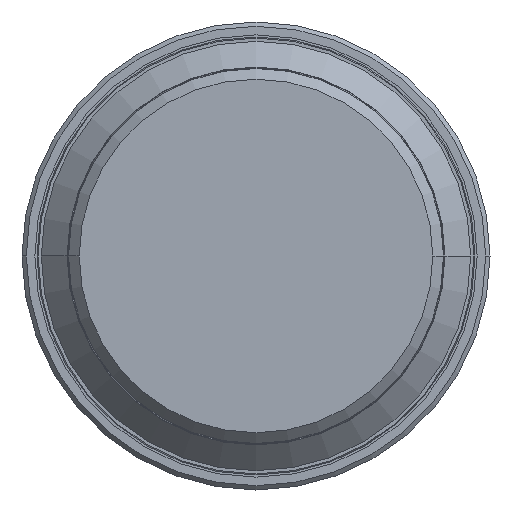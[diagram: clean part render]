
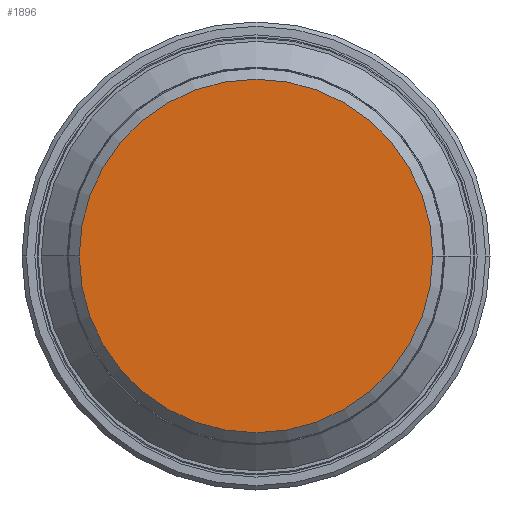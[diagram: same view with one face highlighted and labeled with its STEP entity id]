
A CAD part, front view. The second image highlights one B-rep face of the part: STEP entity #1896.
In plain terms, the highlighted planar face has unit normal (0, -1, 0).
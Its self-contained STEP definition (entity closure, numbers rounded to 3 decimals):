
#888 = VERTEX_POINT( '', #2271 );
#1188 = EDGE_CURVE( '', #888, #1498, #2605, .T. );
#1498 = VERTEX_POINT( '', #2951 );
#1864 = EDGE_CURVE( '', #1498, #888, #3357, .T. );
#1896 = ADVANCED_FACE( '', ( #3393 ), #3394, .T. );
#2271 = CARTESIAN_POINT( '', ( -8.235, -50.5, 0. ) );
#2605 = CIRCLE( '', #4343, 8.235 );
#2951 = CARTESIAN_POINT( '', ( 8.235, -50.5, 0. ) );
#3357 = CIRCLE( '', #5522, 8.235 );
#3393 = FACE_OUTER_BOUND( '', #5572, .T. );
#3394 = PLANE( '', #5573 );
#4343 = AXIS2_PLACEMENT_3D( '', #6493, #6494, #6495 );
#5522 = AXIS2_PLACEMENT_3D( '', #7414, #7415, #7416 );
#5572 = EDGE_LOOP( '', ( #7462, #7463 ) );
#5573 = AXIS2_PLACEMENT_3D( '', #7464, #7465, #7466 );
#6493 = CARTESIAN_POINT( '', ( 0., -50.5, 0. ) );
#6494 = DIRECTION( '', ( 0., 1., 0. ) );
#6495 = DIRECTION( '', ( 1., 0., 0. ) );
#7414 = CARTESIAN_POINT( '', ( 0., -50.5, 0. ) );
#7415 = DIRECTION( '', ( 0., 1., 0. ) );
#7416 = DIRECTION( '', ( 1., 0., 0. ) );
#7462 = ORIENTED_EDGE( '', *, *, #1864, .F. );
#7463 = ORIENTED_EDGE( '', *, *, #1188, .F. );
#7464 = CARTESIAN_POINT( '', ( 4.118, -50.5, 0. ) );
#7465 = DIRECTION( '', ( 0., -1., 0. ) );
#7466 = DIRECTION( '', ( -1., 0., 0. ) );
